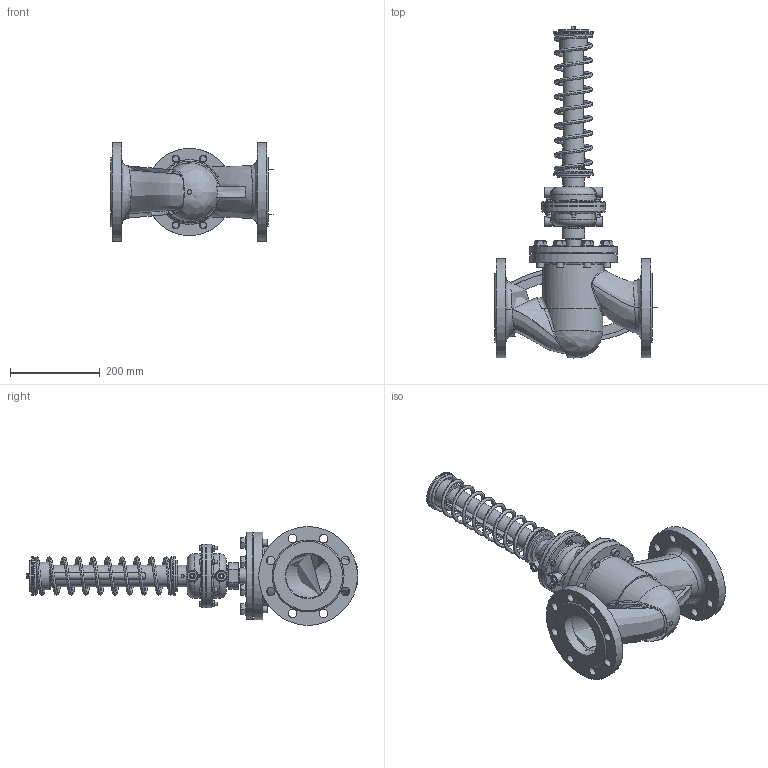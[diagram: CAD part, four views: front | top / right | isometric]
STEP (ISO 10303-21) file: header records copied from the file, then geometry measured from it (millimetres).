
FILE_DESCRIPTION(('STEP AP203'), '1');
FILE_NAME('PA_100-íåðàçáîðíûé.stp', '2017-07-14T08:46:55', ('UNSPECIFIED'), ('UNSPECIFIED'), 'ASCON STEP Converter 1.0', 'Kompas 3D', '');
FILE_SCHEMA(('CONFIG_CONTROL_DESIGN'));
Length unit declared in the file: millimetre
Products named in the file (1): 15
Bounding box: 361.18 x 739 x 220 mm (x, y, z)
Volume: 4610211.4 mm3; surface area: 964892.6 mm2
Topology: 3 solids, 3 shells, 755 faces, 1771 edges, 1104 vertices
Faces by surface type: plane 284, cylinder 213, bspline 105, cone 96, torus 57
Full cylindrical faces by diameter (mm): 2 x1, 4 x1, 6.5 x1, 7 x4, 8 x6, 10 x1, 10.5 x4, 11 x2, 12 x3, 13.7 x1, 14 x1, 14.5 x2, 15 x3, 16 x17, 17 x9, 19 x24, 20 x6, 22 x4, 28 x1, 30 x10, 31.5 x1, 34 x2, 39.5 x1, 41 x1, 42 x3, 46 x2, 48 x4, 48.5 x1, 52.5 x1, 54.2 x1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
Entity records: 54721 total; most frequent: CARTESIAN_POINT 38301, ORIENTED_EDGE 3510, DIRECTION 3090, EDGE_CURVE 1755, AXIS2_PLACEMENT_3D 1253, VERTEX_POINT 1096, EDGE_LOOP 925, ADVANCED_FACE 755
